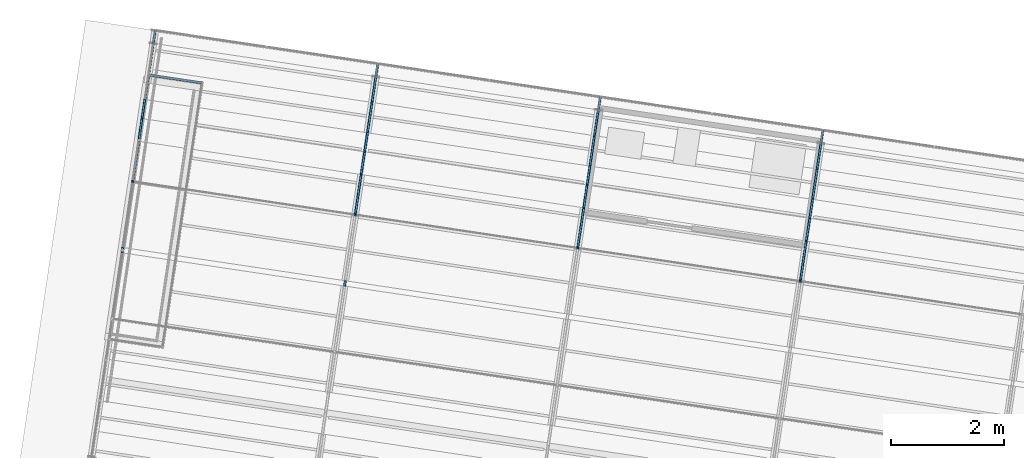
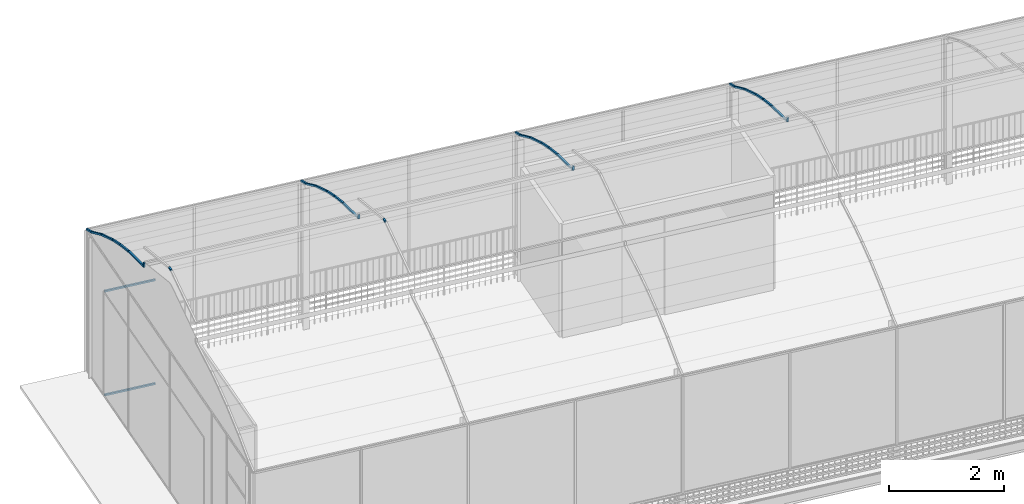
# One storey, part 20 of 34: 32 members, 1 element without a shape of its own.
"""IFC4 building model written with IfcOpenShell, lengths in metres."""

from ifc_helpers import new_model, si_unit, direction, frame, origin_with_axes, place, context, subcontext, project, spatial, rectangle, extrude, material, material_profile, profile_set, profile_usage, type_object, element, aggregate, save


model = new_model("IFC4")

# Units and contexts
model_context = context("Model", 3, precision=1e-05, world=origin_with_axes(), true_north=direction((0.0, 1.0)))
body_context = subcontext(model_context, "Body", "Model", "MODEL_VIEW")
ifc_project = project(units=[si_unit("AREAUNIT", "SQUARE_METRE"), si_unit("VOLUMEUNIT", "CUBIC_METRE"), si_unit("LENGTHUNIT", "METRE")], contexts=[model_context])

# Site, building, storey
site_placement = place(None, origin_with_axes())
site = spatial("IfcSite", under=ifc_project, at=site_placement, Name="Lares · Rua das Mercês · artigo 4771")
building_placement = place(site_placement, frame((15.0, 9.7, 14.65), z_axis=(0.0, 0.0, 1.0), x_axis=(0.989015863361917, -0.147809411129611, 0.0)))
building = spatial("IfcBuilding", under=site, at=building_placement, Name="Casa Sobreposta")
storey_placement = place(building_placement, frame((0.0, 0.0, 3.24), z_axis=(0.0, 0.0, 1.0), x_axis=(1.0, 0.0, 0.0)))
storey = spatial("IfcBuildingStorey", under=building, at=storey_placement, Name="01 · Jardim de inverno", Elevation=17.89)

# Roof, members
ifc_material_1 = material(Name="Vidro / Normalglas", Category="glass")
roof_placement = place(storey_placement, frame((0.0, 0.0, -3.24), z_axis=(0.0, 0.0, 1.0), x_axis=(1.0, 0.0, 0.0)))
roof = element("IfcRoof", 1, at=roof_placement, inside=storey, material=ifc_material_1, Name="Cobertura translúcida da estufa", PredefinedType="BARREL_ROOF")
ifc_material_2 = material(Name="Aço pintado / Stahl lackiert", Category="steel")
ifc_material_profile = material_profile(ifc_material_2, rectangle(XDim=0.035, YDim=0.035))
ifc_profile_set = profile_set([ifc_material_profile], Name="R0.035")
ifc_profile_usage_1 = profile_usage(ifc_profile_set)
member_type = type_object("IfcMemberType", Name="R0.035 / steel", PredefinedType="NOTDEFINED", material=ifc_profile_set)
member_1_placement = place(roof_placement, frame((0.0, 2.40274082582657, 7.96518238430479), z_axis=(0.0, 1.0, 0.0), x_axis=(1.0, 0.0, 0.0)))
member_1 = element("IfcMember", 2, at=member_1_placement, type_object=member_type, material=ifc_profile_usage_1, Name="Arco estufa 0/8", context=body_context, shape_type="SweptSolid", body=[
    extrude(rectangle(XDim=0.035, YDim=0.035), origin_with_axes(), (0.0, 0.0, 1.0), 0.0949594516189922),
])
ifc_profile_usage_2 = profile_usage(ifc_profile_set)
member_2_placement = place(roof_placement, frame((4.0, 2.40274082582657, 7.96518238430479), z_axis=(0.0, 1.0, 0.0), x_axis=(1.0, 0.0, 0.0)))
member_2 = element("IfcMember", 3, at=member_2_placement, type_object=member_type, material=ifc_profile_usage_2, Name="Arco estufa 4/8", context=body_context, shape_type="SweptSolid", body=[
    extrude(rectangle(XDim=0.035, YDim=0.035), origin_with_axes(), (0.0, 0.0, 1.0), 0.0949594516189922),
])
ifc_profile_usage_3 = profile_usage(ifc_profile_set)
member_3_placement = place(roof_placement, frame((0.0, 3.68002089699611, 7.30067689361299), z_axis=(0.0, 0.0651953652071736, -0.997872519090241), x_axis=(1.0, 0.0, 0.0)))
member_3 = element("IfcMember", 4, at=member_3_placement, type_object=member_type, material=ifc_profile_usage_3, Name="Arco estufa 0/10", context=body_context, shape_type="SweptSolid", body=[
    extrude(rectangle(XDim=0.035, YDim=0.035), origin_with_axes(), (0.0, 0.0, 1.0), 0.0875840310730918),
])
ifc_profile_usage_4 = profile_usage(ifc_profile_set)
member_4_placement = place(roof_placement, frame((4.0, 3.68002089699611, 7.30067689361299), z_axis=(0.0, 0.0651953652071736, -0.997872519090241), x_axis=(1.0, 0.0, 0.0)))
member_4 = element("IfcMember", 5, at=member_4_placement, type_object=member_type, material=ifc_profile_usage_4, Name="Arco estufa 4/10", context=body_context, shape_type="SweptSolid", body=[
    extrude(rectangle(XDim=0.035, YDim=0.035), origin_with_axes(), (0.0, 0.0, 1.0), 0.0875840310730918),
])
ifc_profile_usage_5 = profile_usage(ifc_profile_set)
member_5_placement = place(roof_placement, frame((8.0, 3.68002089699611, 7.30067689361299), z_axis=(0.0, 0.0651953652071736, -0.997872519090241), x_axis=(1.0, 0.0, 0.0)))
member_5 = element("IfcMember", 6, at=member_5_placement, type_object=member_type, material=ifc_profile_usage_5, Name="Arco estufa 8/10", context=body_context, shape_type="SweptSolid", body=[
    extrude(rectangle(XDim=0.035, YDim=0.035), origin_with_axes(), (0.0, 0.0, 1.0), 0.0875840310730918),
])
ifc_profile_usage_6 = profile_usage(ifc_profile_set)
member_6_placement = place(roof_placement, frame((12.0, 3.68002089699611, 7.30067689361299), z_axis=(0.0, 0.0651953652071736, -0.997872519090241), x_axis=(1.0, 0.0, 0.0)))
member_6 = element("IfcMember", 7, at=member_6_placement, type_object=member_type, material=ifc_profile_usage_6, Name="Arco estufa 12/10", context=body_context, shape_type="SweptSolid", body=[
    extrude(rectangle(XDim=0.035, YDim=0.035), origin_with_axes(), (0.0, 0.0, 1.0), 0.0875840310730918),
])
ifc_profile_usage_7 = profile_usage(ifc_profile_set)
member_7_placement = place(roof_placement, frame((0.0, 3.68573096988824, 7.21327919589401), z_axis=(0.0, 0.977996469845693, -0.208621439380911), x_axis=(1.0, 0.0, 0.0)))
member_7 = element("IfcMember", 8, at=member_7_placement, type_object=member_type, material=ifc_profile_usage_7, Name="Arco estufa 0/11", context=body_context, shape_type="SweptSolid", body=[
    extrude(rectangle(XDim=0.035, YDim=0.035), origin_with_axes(), (0.0, 0.0, 1.0), 0.737400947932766),
])
ifc_profile_usage_8 = profile_usage(ifc_profile_set)
member_8_placement = place(roof_placement, frame((4.0, 3.68573096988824, 7.21327919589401), z_axis=(0.0, 0.977996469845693, -0.208621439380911), x_axis=(1.0, 0.0, 0.0)))
member_8 = element("IfcMember", 9, at=member_8_placement, type_object=member_type, material=ifc_profile_usage_8, Name="Arco estufa 4/11", context=body_context, shape_type="SweptSolid", body=[
    extrude(rectangle(XDim=0.035, YDim=0.035), origin_with_axes(), (0.0, 0.0, 1.0), 0.737400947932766),
])
ifc_profile_usage_9 = profile_usage(ifc_profile_set)
member_9_placement = place(roof_placement, frame((8.0, 3.68573096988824, 7.21327919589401), z_axis=(0.0, 0.977996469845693, -0.208621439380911), x_axis=(1.0, 0.0, 0.0)))
member_9 = element("IfcMember", 10, at=member_9_placement, type_object=member_type, material=ifc_profile_usage_9, Name="Arco estufa 8/11", context=body_context, shape_type="SweptSolid", body=[
    extrude(rectangle(XDim=0.035, YDim=0.035), origin_with_axes(), (0.0, 0.0, 1.0), 0.737400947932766),
])
ifc_profile_usage_10 = profile_usage(ifc_profile_set)
member_10_placement = place(roof_placement, frame((12.0, 3.68573096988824, 7.21327919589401), z_axis=(0.0, 0.977996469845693, -0.208621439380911), x_axis=(1.0, 0.0, 0.0)))
member_10 = element("IfcMember", 11, at=member_10_placement, type_object=member_type, material=ifc_profile_usage_10, Name="Arco estufa 12/11", context=body_context, shape_type="SweptSolid", body=[
    extrude(rectangle(XDim=0.035, YDim=0.035), origin_with_axes(), (0.0, 0.0, 1.0), 0.737400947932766),
])
ifc_profile_usage_11 = profile_usage(ifc_profile_set)
member_11_placement = place(roof_placement, frame((0.0, 4.40690649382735, 7.05944154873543), z_axis=(0.0, 0.958508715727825, -0.285063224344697), x_axis=(1.0, 0.0, 0.0)))
member_11 = element("IfcMember", 12, at=member_11_placement, type_object=member_type, material=ifc_profile_usage_11, Name="Arco estufa 0/12", context=body_context, shape_type="SweptSolid", body=[
    extrude(rectangle(XDim=0.035, YDim=0.035), origin_with_axes(), (0.0, 0.0, 1.0), 0.426177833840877),
])
ifc_profile_usage_12 = profile_usage(ifc_profile_set)
member_12_placement = place(roof_placement, frame((4.0, 4.40690649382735, 7.05944154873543), z_axis=(0.0, 0.958508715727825, -0.285063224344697), x_axis=(1.0, 0.0, 0.0)))
member_12 = element("IfcMember", 13, at=member_12_placement, type_object=member_type, material=ifc_profile_usage_12, Name="Arco estufa 4/12", context=body_context, shape_type="SweptSolid", body=[
    extrude(rectangle(XDim=0.035, YDim=0.035), origin_with_axes(), (0.0, 0.0, 1.0), 0.426177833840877),
])
ifc_profile_usage_13 = profile_usage(ifc_profile_set)
member_13_placement = place(roof_placement, frame((8.0, 4.40690649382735, 7.05944154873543), z_axis=(0.0, 0.958508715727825, -0.285063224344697), x_axis=(1.0, 0.0, 0.0)))
member_13 = element("IfcMember", 14, at=member_13_placement, type_object=member_type, material=ifc_profile_usage_13, Name="Arco estufa 8/12", context=body_context, shape_type="SweptSolid", body=[
    extrude(rectangle(XDim=0.035, YDim=0.035), origin_with_axes(), (0.0, 0.0, 1.0), 0.426177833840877),
])
ifc_profile_usage_14 = profile_usage(ifc_profile_set)
member_14_placement = place(roof_placement, frame((12.0, 4.40690649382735, 7.05944154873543), z_axis=(0.0, 0.958508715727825, -0.285063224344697), x_axis=(1.0, 0.0, 0.0)))
member_14 = element("IfcMember", 15, at=member_14_placement, type_object=member_type, material=ifc_profile_usage_14, Name="Arco estufa 12/12", context=body_context, shape_type="SweptSolid", body=[
    extrude(rectangle(XDim=0.035, YDim=0.035), origin_with_axes(), (0.0, 0.0, 1.0), 0.426177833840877),
])
ifc_profile_usage_15 = profile_usage(ifc_profile_set)
member_15_placement = place(roof_placement, frame((0.0, 4.81540166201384, 6.93795392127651), z_axis=(0.0, 0.941396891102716, -0.337300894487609), x_axis=(1.0, 0.0, 0.0)))
member_15 = element("IfcMember", 16, at=member_15_placement, type_object=member_type, material=ifc_profile_usage_15, Name="Arco estufa 0/13", context=body_context, shape_type="SweptSolid", body=[
    extrude(rectangle(XDim=0.035, YDim=0.035), origin_with_axes(), (0.0, 0.0, 1.0), 0.362337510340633),
])
ifc_profile_usage_16 = profile_usage(ifc_profile_set)
member_16_placement = place(roof_placement, frame((4.0, 4.81540166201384, 6.93795392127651), z_axis=(0.0, 0.941396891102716, -0.337300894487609), x_axis=(1.0, 0.0, 0.0)))
member_16 = element("IfcMember", 17, at=member_16_placement, type_object=member_type, material=ifc_profile_usage_16, Name="Arco estufa 4/13", context=body_context, shape_type="SweptSolid", body=[
    extrude(rectangle(XDim=0.035, YDim=0.035), origin_with_axes(), (0.0, 0.0, 1.0), 0.362337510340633),
])
ifc_profile_usage_17 = profile_usage(ifc_profile_set)
member_17_placement = place(roof_placement, frame((8.0, 4.81540166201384, 6.93795392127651), z_axis=(0.0, 0.941396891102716, -0.337300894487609), x_axis=(1.0, 0.0, 0.0)))
member_17 = element("IfcMember", 18, at=member_17_placement, type_object=member_type, material=ifc_profile_usage_17, Name="Arco estufa 8/13", context=body_context, shape_type="SweptSolid", body=[
    extrude(rectangle(XDim=0.035, YDim=0.035), origin_with_axes(), (0.0, 0.0, 1.0), 0.362337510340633),
])
ifc_profile_usage_18 = profile_usage(ifc_profile_set)
member_18_placement = place(roof_placement, frame((12.0, 4.81540166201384, 6.93795392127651), z_axis=(0.0, 0.941396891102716, -0.337300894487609), x_axis=(1.0, 0.0, 0.0)))
member_18 = element("IfcMember", 19, at=member_18_placement, type_object=member_type, material=ifc_profile_usage_18, Name="Arco estufa 12/13", context=body_context, shape_type="SweptSolid", body=[
    extrude(rectangle(XDim=0.035, YDim=0.035), origin_with_axes(), (0.0, 0.0, 1.0), 0.362337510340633),
])
ifc_profile_usage_19 = profile_usage(ifc_profile_set)
member_19_placement = place(roof_placement, frame((0.0, 5.15650506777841, 6.8157371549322), z_axis=(0.0, 0.915895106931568, -0.401417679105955), x_axis=(1.0, 0.0, 0.0)))
member_19 = element("IfcMember", 20, at=member_19_placement, type_object=member_type, material=ifc_profile_usage_19, Name="Arco estufa 0/14", context=body_context, shape_type="SweptSolid", body=[
    extrude(rectangle(XDim=0.035, YDim=0.035), origin_with_axes(), (0.0, 0.0, 1.0), 0.596721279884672),
])
ifc_profile_usage_20 = profile_usage(ifc_profile_set)
member_20_placement = place(roof_placement, frame((4.0, 5.15650506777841, 6.8157371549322), z_axis=(0.0, 0.915895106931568, -0.401417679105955), x_axis=(1.0, 0.0, 0.0)))
member_20 = element("IfcMember", 21, at=member_20_placement, type_object=member_type, material=ifc_profile_usage_20, Name="Arco estufa 4/14", context=body_context, shape_type="SweptSolid", body=[
    extrude(rectangle(XDim=0.035, YDim=0.035), origin_with_axes(), (0.0, 0.0, 1.0), 0.596721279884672),
])
ifc_profile_usage_21 = profile_usage(ifc_profile_set)
member_21_placement = place(roof_placement, frame((8.0, 5.15650506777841, 6.8157371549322), z_axis=(0.0, 0.915895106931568, -0.401417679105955), x_axis=(1.0, 0.0, 0.0)))
member_21 = element("IfcMember", 22, at=member_21_placement, type_object=member_type, material=ifc_profile_usage_21, Name="Arco estufa 8/14", context=body_context, shape_type="SweptSolid", body=[
    extrude(rectangle(XDim=0.035, YDim=0.035), origin_with_axes(), (0.0, 0.0, 1.0), 0.596721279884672),
])
ifc_profile_usage_22 = profile_usage(ifc_profile_set)
member_22_placement = place(roof_placement, frame((12.0, 5.15650506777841, 6.8157371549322), z_axis=(0.0, 0.915895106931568, -0.401417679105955), x_axis=(1.0, 0.0, 0.0)))
member_22 = element("IfcMember", 23, at=member_22_placement, type_object=member_type, material=ifc_profile_usage_22, Name="Arco estufa 12/14", context=body_context, shape_type="SweptSolid", body=[
    extrude(rectangle(XDim=0.035, YDim=0.035), origin_with_axes(), (0.0, 0.0, 1.0), 0.596721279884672),
])
ifc_profile_usage_23 = profile_usage(ifc_profile_set)
member_23_placement = place(roof_placement, frame((0.0, 5.70303916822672, 6.57620268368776), z_axis=(0.0, 0.878867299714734, -0.477066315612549), x_axis=(1.0, 0.0, 0.0)))
member_23 = element("IfcMember", 24, at=member_23_placement, type_object=member_type, material=ifc_profile_usage_23, Name="Arco estufa 0/15", context=body_context, shape_type="SweptSolid", body=[
    extrude(rectangle(XDim=0.035, YDim=0.035), origin_with_axes(), (0.0, 0.0, 1.0), 0.52859183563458),
])
ifc_profile_usage_24 = profile_usage(ifc_profile_set)
member_24_placement = place(roof_placement, frame((4.0, 5.70303916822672, 6.57620268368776), z_axis=(0.0, 0.878867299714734, -0.477066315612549), x_axis=(1.0, 0.0, 0.0)))
member_24 = element("IfcMember", 25, at=member_24_placement, type_object=member_type, material=ifc_profile_usage_24, Name="Arco estufa 4/15", context=body_context, shape_type="SweptSolid", body=[
    extrude(rectangle(XDim=0.035, YDim=0.035), origin_with_axes(), (0.0, 0.0, 1.0), 0.52859183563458),
])
ifc_profile_usage_25 = profile_usage(ifc_profile_set)
member_25_placement = place(roof_placement, frame((8.0, 5.70303916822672, 6.57620268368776), z_axis=(0.0, 0.878867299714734, -0.477066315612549), x_axis=(1.0, 0.0, 0.0)))
member_25 = element("IfcMember", 26, at=member_25_placement, type_object=member_type, material=ifc_profile_usage_25, Name="Arco estufa 8/15", context=body_context, shape_type="SweptSolid", body=[
    extrude(rectangle(XDim=0.035, YDim=0.035), origin_with_axes(), (0.0, 0.0, 1.0), 0.52859183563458),
])
ifc_profile_usage_26 = profile_usage(ifc_profile_set)
member_26_placement = place(roof_placement, frame((12.0, 5.70303916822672, 6.57620268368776), z_axis=(0.0, 0.878867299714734, -0.477066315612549), x_axis=(1.0, 0.0, 0.0)))
member_26 = element("IfcMember", 27, at=member_26_placement, type_object=member_type, material=ifc_profile_usage_26, Name="Arco estufa 12/15", context=body_context, shape_type="SweptSolid", body=[
    extrude(rectangle(XDim=0.035, YDim=0.035), origin_with_axes(), (0.0, 0.0, 1.0), 0.52859183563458),
])
ifc_profile_usage_27 = profile_usage(ifc_profile_set)
member_27_placement = place(roof_placement, frame((0.0, 6.16760124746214, 6.3240293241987), z_axis=(0.0, 0.932880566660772, -0.360185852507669), x_axis=(1.0, 0.0, 0.0)))
member_27 = element("IfcMember", 28, at=member_27_placement, type_object=member_type, material=ifc_profile_usage_27, Name="Arco estufa 0/16", context=body_context, shape_type="SweptSolid", body=[
    extrude(rectangle(XDim=0.035, YDim=0.035), origin_with_axes(), (0.0, 0.0, 1.0), 0.249119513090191),
])
ifc_profile_usage_28 = profile_usage(ifc_profile_set)
member_28_placement = place(roof_placement, frame((4.0, 6.16760124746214, 6.3240293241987), z_axis=(0.0, 0.932880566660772, -0.360185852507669), x_axis=(1.0, 0.0, 0.0)))
member_28 = element("IfcMember", 29, at=member_28_placement, type_object=member_type, material=ifc_profile_usage_28, Name="Arco estufa 4/16", context=body_context, shape_type="SweptSolid", body=[
    extrude(rectangle(XDim=0.035, YDim=0.035), origin_with_axes(), (0.0, 0.0, 1.0), 0.249119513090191),
])
ifc_profile_usage_29 = profile_usage(ifc_profile_set)
member_29_placement = place(roof_placement, frame((8.0, 6.16760124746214, 6.3240293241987), z_axis=(0.0, 0.932880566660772, -0.360185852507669), x_axis=(1.0, 0.0, 0.0)))
member_29 = element("IfcMember", 30, at=member_29_placement, type_object=member_type, material=ifc_profile_usage_29, Name="Arco estufa 8/16", context=body_context, shape_type="SweptSolid", body=[
    extrude(rectangle(XDim=0.035, YDim=0.035), origin_with_axes(), (0.0, 0.0, 1.0), 0.249119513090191),
])
ifc_profile_usage_30 = profile_usage(ifc_profile_set)
member_30_placement = place(roof_placement, frame((12.0, 6.16760124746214, 6.3240293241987), z_axis=(0.0, 0.932880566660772, -0.360185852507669), x_axis=(1.0, 0.0, 0.0)))
member_30 = element("IfcMember", 31, at=member_30_placement, type_object=member_type, material=ifc_profile_usage_30, Name="Arco estufa 12/16", context=body_context, shape_type="SweptSolid", body=[
    extrude(rectangle(XDim=0.035, YDim=0.035), origin_with_axes(), (0.0, 0.0, 1.0), 0.249119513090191),
])
aggregate(roof, [member_1, member_2, member_3, member_4, member_5, member_6, member_7, member_8, member_9, member_10, member_11, member_12, member_13, member_14, member_15, member_16, member_17, member_18, member_19, member_20, member_21, member_22, member_23, member_24, member_25, member_26, member_27, member_28, member_29, member_30])

# Members
ifc_profile_usage_31 = profile_usage(ifc_profile_set)
member_31_placement = place(storey_placement, frame((0.01, 5.6, 0.0), z_axis=(1.0, 0.0, 0.0), x_axis=(0.0, -1.0, 0.0)))
element("IfcMember", 32, at=member_31_placement, inside=storey, type_object=member_type, material=ifc_profile_usage_31, Name="Caixa térmica 1 · north · travessa", context=body_context, shape_type="SweptSolid", body=[
    extrude(rectangle(XDim=0.035, YDim=0.035), origin_with_axes(), (0.0, 0.0, 1.0), 0.95),
])
ifc_profile_usage_32 = profile_usage(ifc_profile_set)
member_32_placement = place(storey_placement, frame((0.01, 5.6, 2.2), z_axis=(1.0, 0.0, 0.0), x_axis=(0.0, -1.0, 0.0)))
element("IfcMember", 33, at=member_32_placement, inside=storey, type_object=member_type, material=ifc_profile_usage_32, Name="Caixa térmica 1 · north · travessa", context=body_context, shape_type="SweptSolid", body=[
    extrude(rectangle(XDim=0.035, YDim=0.035), origin_with_axes(), (0.0, 0.0, 1.0), 0.95),
])

save(model, "model.ifc")
